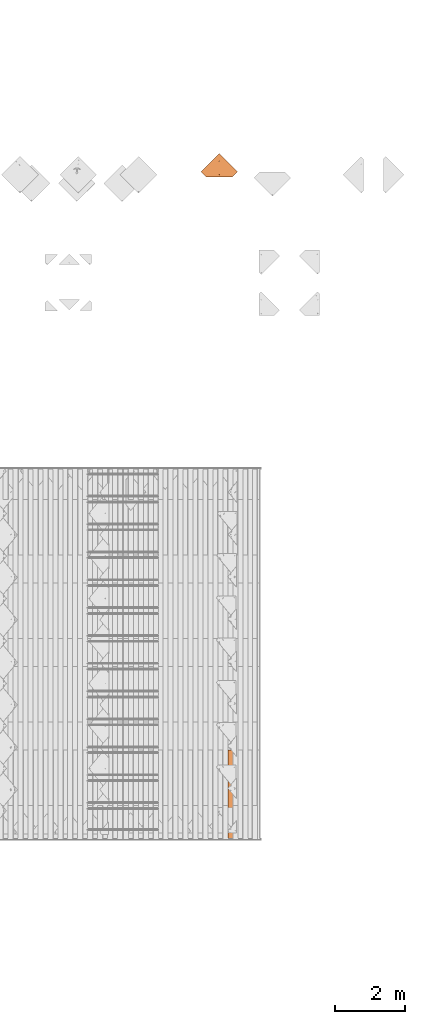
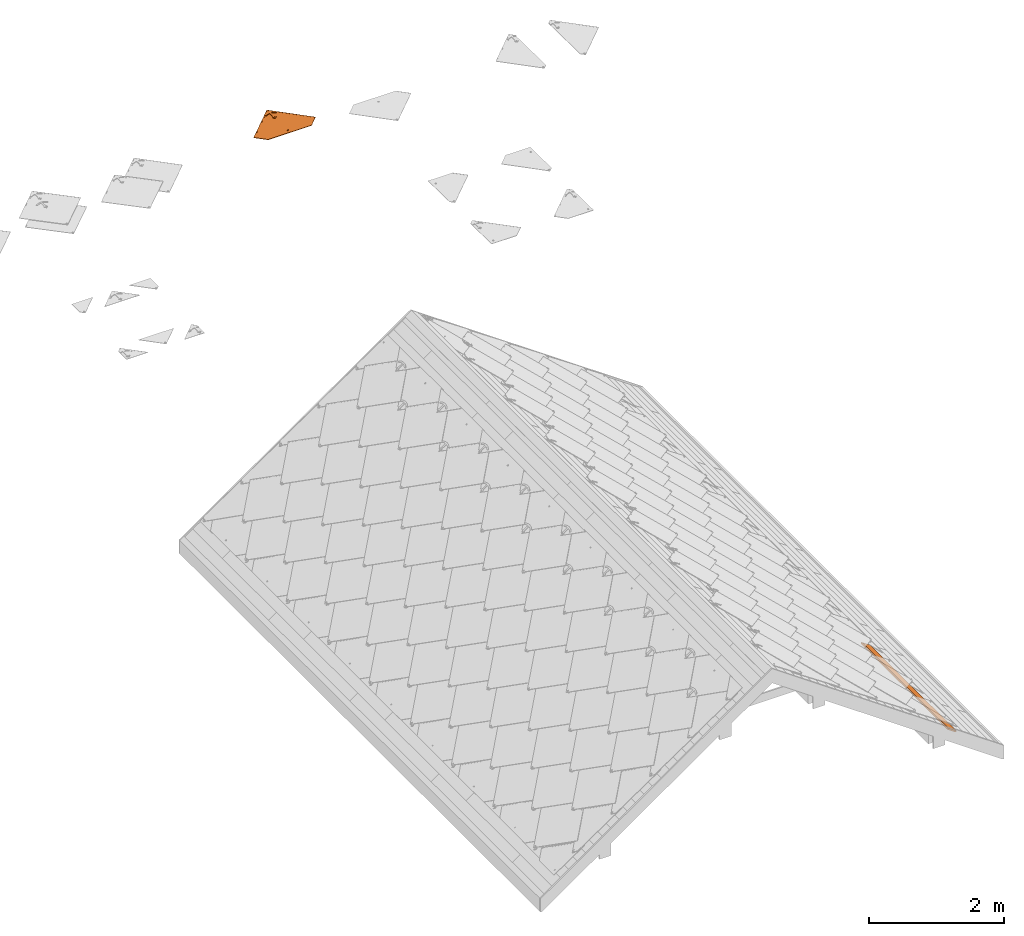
# One storey, part 90 of 133: 2 proxies, 1 element without a shape of its own.
"""IFC2X3 building model written with IfcOpenShell, lengths in millimetres."""

from ifc_helpers import new_model, entity, si_unit, converted_unit, derived_unit, direction, frame, frame_2d, origin, place, context, subcontext, project, spatial, rectangle, extrude, faceted_brep, source, transform, mapped, material, material_list, type_object, type_shapes, element, aggregate, save


model = new_model("IFC2X3")

# Units and contexts
model_context = context("Model", 3, precision=0.01, world=origin(), true_north=direction((6.12303176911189e-17, 1.0)))
body_context = subcontext(model_context, "Body", "Model", "MODEL_VIEW")
ifc_project = project(units=[si_unit("LENGTHUNIT", "METRE", prefix="MILLI"), si_unit("AREAUNIT", "SQUARE_METRE"), si_unit("VOLUMEUNIT", "CUBIC_METRE"), converted_unit("PLANEANGLEUNIT", "DEGREE", entity("IfcRatioMeasure", 0.0174532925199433), si_unit("PLANEANGLEUNIT", "RADIAN"), dimensions=[0, 0, 0, 0, 0, 0, 0]), si_unit("MASSUNIT", "GRAM", prefix="KILO"), derived_unit("MASSDENSITYUNIT", [(si_unit("MASSUNIT", "GRAM", prefix="KILO"), 1), (si_unit("LENGTHUNIT", "METRE"), -3)]), si_unit("TIMEUNIT", "SECOND"), si_unit("FREQUENCYUNIT", "HERTZ"), si_unit("THERMODYNAMICTEMPERATUREUNIT", "DEGREE_CELSIUS"), derived_unit("THERMALTRANSMITTANCEUNIT", [(si_unit("MASSUNIT", "GRAM", prefix="KILO"), 1), (si_unit("THERMODYNAMICTEMPERATUREUNIT", "KELVIN"), -1), (si_unit("TIMEUNIT", "SECOND"), -3)]), derived_unit("VOLUMETRICFLOWRATEUNIT", [(si_unit("LENGTHUNIT", "METRE"), 3), (si_unit("TIMEUNIT", "SECOND"), -1)]), si_unit("ELECTRICCURRENTUNIT", "AMPERE"), si_unit("ELECTRICVOLTAGEUNIT", "VOLT"), si_unit("POWERUNIT", "WATT"), si_unit("FORCEUNIT", "NEWTON", prefix="KILO"), si_unit("ILLUMINANCEUNIT", "LUX"), si_unit("LUMINOUSFLUXUNIT", "LUMEN"), si_unit("LUMINOUSINTENSITYUNIT", "CANDELA"), derived_unit("USERDEFINED", [(si_unit("MASSUNIT", "GRAM", prefix="KILO"), -1), (si_unit("LENGTHUNIT", "METRE"), -2), (si_unit("TIMEUNIT", "SECOND"), 3), (si_unit("LUMINOUSFLUXUNIT", "LUMEN"), 1)]), derived_unit("LINEARVELOCITYUNIT", [(si_unit("LENGTHUNIT", "METRE"), 1), (si_unit("TIMEUNIT", "SECOND"), -1)]), si_unit("PRESSUREUNIT", "PASCAL"), derived_unit("USERDEFINED", [(si_unit("LENGTHUNIT", "METRE"), -2), (si_unit("MASSUNIT", "GRAM", prefix="KILO"), 1), (si_unit("TIMEUNIT", "SECOND"), -2)])], contexts=[model_context])

# Site, building, storey
site_placement = place(None, origin())
site = spatial("IfcSite", under=ifc_project, at=site_placement, Name="Default", CompositionType="ELEMENT")
building_placement = place(site_placement, origin())
building = spatial("IfcBuilding", under=site, at=building_placement, CompositionType="ELEMENT")
storey_placement = place(building_placement, origin())
storey = spatial("IfcBuildingStorey", under=building, at=storey_placement, Name="Level 1", CompositionType="ELEMENT", Elevation=0.0)

# Assembly, proxy
assembly_placement = place(storey_placement, origin())
assembly = element("IfcElementAssembly", 1, at=assembly_placement, inside=storey, Name="Structural Framing Assembly:Roof Construction Assembly", ObjectType="Structural Framing Assembly:Roof Construction Assembly", AssemblyPlace="NOTDEFINED", PredefinedType="USERDEFINED")
ifc_material_1 = material(Name="Wood - Generic - Wood For Showcase")
building_element_proxy_type_1 = type_object("IfcBuildingElementProxyType", Name="Structural Framing 15", PredefinedType="NOTDEFINED", material=ifc_material_1)
shared_shape_1 = source(origin(), body_context, "Body", "SweptSolid", [
    extrude(rectangle(XDim=24.9999999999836, YDim=174.344679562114, at=frame_2d((3.73923114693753e-13, 6.3948846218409e-14), x_axis=(1.0, 0.0))), frame((1285.35601305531, 1437.09519417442, 2760.23940055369), z_axis=(0.0, 1.0, 0.0), x_axis=(0.573576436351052, 0.0, 0.819152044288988)), (0.0, 0.0, 1.0), 2558.45560797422),
])
type_shapes(building_element_proxy_type_1, [shared_shape_1])
proxy_1_placement = place(assembly_placement, frame((2999.11081415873, -8140.0, -2100.0)))
proxy_1 = element("IfcBuildingElementProxy", 2, at=proxy_1_placement, type_object=building_element_proxy_type_1, material=ifc_material_1, Name="Structural Framing 263:Structural Framing 15", ObjectType="Structural Framing 263:Structural Framing 15", context=body_context, shape_type="MappedRepresentation", body=[
    mapped(shared_shape_1, transform((0.0, 0.0, 0.0), scale=1.0)),
])
aggregate(assembly, [proxy_1])

# Proxy
ifc_material_2 = material(Name="Rubber - Sunstyle - Black")
ifc_material_3 = material(Name="Glass - Sunstyle - Tainted Black")
ifc_material_list_1 = material_list([ifc_material_2, ifc_material_3])
ifc_material_list_2 = material_list([ifc_material_2, ifc_material_3])
building_element_proxy_type_2 = type_object("IfcBuildingElementProxyType", Name="Shingle Bottom - Black", PredefinedType="NOTDEFINED", material=ifc_material_list_2)
shared_shape_2 = source(origin(), body_context, "Body", "Brep", [
    faceted_brep([(0.0, -1.79273515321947, -4.01619789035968), (-5.7742028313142, -5.12600528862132, -3.96037390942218), (-5.77420283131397, -4.75769619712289, 18.0314954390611), (0.0, -1.42442606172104, 17.9756714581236), (-5.77420283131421, -11.792545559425, -3.84872594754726), (-5.77420283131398, -11.4242364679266, 18.143143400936), (0.0, -15.1258156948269, -3.79290196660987), (0.0, -14.7575066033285, 18.1989673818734), (5.77420283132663, -11.7925455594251, -3.84872594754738), (5.77420283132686, -11.4242364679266, 18.1431434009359), (5.77420283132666, -5.12600528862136, -3.96037390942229), (5.77420283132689, -4.75769619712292, 18.031495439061), (-8.60370416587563, -16.6934641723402, 18.2313898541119), (0.0, -20.2567354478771, 18.2910657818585), (-12.1674751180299, -8.09096633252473, 18.0873194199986), (-8.60370416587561, 0.511531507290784, 17.9432489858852), (0.0, 4.07480278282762, 17.8835730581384), (8.60370416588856, 0.511531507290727, 17.9432489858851), (12.1674751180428, -8.09096633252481, 18.0873194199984), (8.60370416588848, -16.6934641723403, 18.2313898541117), (-11.4302228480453, -6.71737066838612, 20.4858706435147), (-9.77051349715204, -8.02009729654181, 22.3189355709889), (0.0, -0.706876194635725, 22.9603444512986), (0.0, 0.533621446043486, 22.3799978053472), (0.0, 2.69117229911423, 21.3706227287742), (-6.32324569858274, -4.35709193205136, 23.021476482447), (-6.32324569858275, -11.6575234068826, 23.1437405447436), (0.0, -18.7571148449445, 21.7298281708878), (0.0, -15.3077391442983, 23.2048725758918), (10.9851748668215, -11.808022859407, 20.3827540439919), (10.123850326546, -8.02413622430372, 22.0777687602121), (6.32324569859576, -4.3570919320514, 23.0214764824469), (6.32324569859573, -11.6575234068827, 23.1437405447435), (-6.32324569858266, -11.5234949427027, 31.146628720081), (0.0, -15.1737106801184, 31.2077607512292), (0.0, -7.8732792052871, 31.0854966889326), (-6.32324569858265, -4.22306346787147, 31.0243646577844), (6.32324569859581, -11.5234949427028, 31.1466287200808), (6.32324569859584, -4.22306346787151, 31.0243646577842), (0.0, -0.57284773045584, 30.963232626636), (0.0, -8.45927542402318, -3.90454992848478)], [[[0, 1, 2, 3]], [[1, 4, 5, 2]], [[4, 6, 7, 5]], [[6, 8, 9, 7]], [[8, 10, 11, 9]], [[10, 0, 3, 11]], [[12, 7, 13]], [[7, 12, 5]], [[14, 5, 12]], [[5, 14, 2]], [[15, 2, 14]], [[3, 2, 15]], [[15, 16, 3]], [[16, 17, 3]], [[11, 3, 17]], [[11, 17, 18]], [[9, 11, 18]], [[18, 19, 9]], [[7, 9, 19]], [[19, 13, 7]], [[15, 20, 16]], [[21, 22, 23, 24]], [[22, 21, 25]], [[20, 14, 12]], [[15, 14, 20]], [[25, 21, 26]], [[20, 24, 16]], [[12, 13, 27]], [[12, 27, 20]], [[21, 28, 26]], [[21, 27, 28]], [[20, 21, 24]], [[20, 27, 21]], [[19, 29, 13]], [[30, 23, 31]], [[30, 28, 27]], [[24, 23, 30]], [[29, 27, 13]], [[19, 18, 29]], [[29, 30, 27]], [[29, 17, 24]], [[24, 17, 16]], [[31, 32, 30]], [[23, 22, 31]], [[28, 30, 32]], [[29, 24, 30]], [[29, 18, 17]], [[33, 34, 35]], [[35, 36, 33]], [[34, 37, 35]], [[38, 35, 37]], [[35, 38, 39]], [[35, 39, 36]], [[40, 6, 4]], [[4, 1, 40]], [[1, 0, 40]], [[40, 8, 6]], [[0, 10, 40]], [[8, 40, 10]], [[22, 25, 36, 39]], [[25, 26, 33, 36]], [[26, 28, 34, 33]], [[28, 32, 37, 34]], [[32, 31, 38, 37]], [[31, 22, 39, 38]]]),
    faceted_brep([(0.0, 372.824876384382, 20.3195200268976), (0.0, 377.324245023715, 20.2441667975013), (-8.60370416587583, 376.388147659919, 20.2598440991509), (8.60370416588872, 376.388147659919, 20.2598440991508), (6.64022859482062, 381.157445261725, 20.1799702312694), (12.1674751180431, 384.990645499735, 20.1157736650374), (6.64022859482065, 388.823845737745, 20.0515770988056), (8.6037041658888, 393.59314333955, 19.9717032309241), (0.0, 392.657045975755, 19.9873805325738), (0.0, 397.156414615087, 19.9120273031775), (-8.60370416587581, 393.59314333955, 19.9717032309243), (-6.64022859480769, 388.823845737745, 20.0515770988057), (-12.1674751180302, 384.990645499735, 20.1157736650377), (-6.6402285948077, 381.157445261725, 20.1799702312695), (-6.6402282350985, 388.555922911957, 4.05382046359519), (0.0, 392.389122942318, 3.98962390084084), (-6.64022823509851, 380.889522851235, 4.18221358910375), (0.0, 377.056322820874, 4.24641015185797), (6.64022823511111, 380.889522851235, 4.18221358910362), (6.64022823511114, 388.555922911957, 4.05382046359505), (-8.603704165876, 376.12022504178, 4.26208746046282), (0.0, 372.556953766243, 4.32176338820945), (-12.1674751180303, 384.722722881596, 4.11801702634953), (-8.60370416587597, 393.325220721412, 3.97394659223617), (0.0, 396.888491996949, 3.91427066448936), (8.60370416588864, 393.325220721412, 3.97394659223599), (12.1674751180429, 384.722722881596, 4.11801702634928), (8.60370416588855, 376.12022504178, 4.26208746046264)], [[[0, 1, 2]], [[1, 0, 3]], [[3, 4, 1]], [[4, 3, 5]], [[6, 4, 5]], [[5, 7, 6]], [[7, 8, 6]], [[8, 7, 9]], [[8, 9, 10]], [[10, 11, 8]], [[12, 11, 10]], [[2, 13, 12]], [[12, 13, 11]], [[13, 2, 1]], [[8, 11, 14, 15]], [[11, 13, 16, 14]], [[13, 1, 17, 16]], [[1, 4, 18, 17]], [[4, 6, 19, 18]], [[6, 8, 15, 19]], [[20, 17, 21]], [[17, 20, 16]], [[22, 16, 20]], [[14, 16, 22]], [[23, 14, 22]], [[15, 14, 23]], [[23, 24, 15]], [[24, 25, 15]], [[19, 15, 25]], [[19, 25, 26]], [[26, 18, 19]], [[26, 27, 18]], [[17, 18, 27]], [[27, 21, 17]], [[24, 23, 10, 9]], [[10, 23, 22, 12]], [[20, 21, 0, 2]], [[20, 2, 12, 22]], [[21, 27, 3, 0]], [[3, 27, 26, 5]], [[25, 24, 9, 7]], [[25, 7, 5, 26]]]),
    faceted_brep([(518.247351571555, 79.9143812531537, 14.965257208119), (526.732038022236, 88.3990677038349, 14.8231598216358), (526.732038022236, 88.4241854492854, 16.3229495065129), (518.247351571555, 79.9394989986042, 16.4650468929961), (0.000322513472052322, 598.016093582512, 6.28834266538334), (-518.246706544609, 79.9143812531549, 14.9652572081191), (-526.73139299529, 88.3990677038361, 14.8231598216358), (0.000322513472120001, 614.983087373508, 6.00418773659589), (0.000322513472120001, 615.008205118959, 7.50397742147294), (-526.731392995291, 88.4241854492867, 16.3229495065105), (-518.246706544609, 79.9394989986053, 16.465046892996), (0.000322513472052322, 598.041211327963, 7.78813235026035)], [[[0, 1, 2, 3]], [[1, 0, 4, 5, 6, 7]], [[2, 1, 7, 8]], [[3, 2, 8, 9, 10, 11]], [[0, 3, 11, 4]], [[5, 10, 9, 6]], [[8, 7, 6, 9]], [[4, 11, 10, 5]]]),
    faceted_brep([(0.00032251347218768, 614.983087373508, 6.00418773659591), (-2.87802047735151, 396.187349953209, 9.66847193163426), (0.227808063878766, 396.596182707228, 9.6616250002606), (-5.77219193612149, 394.988712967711, 9.68854611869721), (3.3336366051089, 396.187349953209, 9.66847193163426), (6.22780806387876, 394.988712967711, 9.6885461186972), (8.71308943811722, 393.081956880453, 9.72047953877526), (10.620112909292, 390.59702396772, 9.76209598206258), (-8.25747331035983, 393.081956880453, 9.72047953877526), (-10.1644967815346, 390.59702396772, 9.76209598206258), (-11.3633018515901, 387.703258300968, 9.81055935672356), (-526.731392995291, 88.3990677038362, 14.8231598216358), (11.8189179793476, 387.703258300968, 9.81055935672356), (526.732038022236, 88.3990677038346, 14.8231598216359), (-11.7721919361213, 384.597865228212, 9.86256696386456), (-11.3633018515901, 381.492472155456, 9.91457457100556), (-10.1644967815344, 378.598706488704, 9.96303794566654), (-370.355016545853, -67.9334607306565, 17.4413406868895), (-8.25747331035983, 376.113773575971, 10.0046543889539), (-5.65685424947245, -2.29422365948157, 16.3420467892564), (-6.92820323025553, -3.95084560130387, 16.3697910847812), (-7.72740661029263, -5.88002271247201, 16.4021000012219), (-8.0, -7.95028476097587, 16.4367717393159), (-7.72740661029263, -10.0205468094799, 16.4714434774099), (-6.9282032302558, -11.9497239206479, 16.5037523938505), (-5.65685424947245, -13.6063458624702, 16.5314966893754), (-4.0, -14.8775165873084, 16.5527856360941), (-2.07055236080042, -15.676607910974, 16.5661684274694), (0.0, -15.9491630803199, 16.5707330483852), (370.355661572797, -67.9334607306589, 17.4413406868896), (10.620112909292, 378.598706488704, 9.96303794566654), (8.71308943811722, 376.11377357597, 10.0046543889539), (5.65685424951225, -2.29422365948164, 16.3420467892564), (6.92820323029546, -3.9508456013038, 16.3697910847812), (7.72740661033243, -5.88002271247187, 16.4021000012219), (8.0, -7.9502847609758, 16.4367717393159), (7.72740661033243, -10.0205468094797, 16.4714434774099), (6.92820323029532, -11.9497239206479, 16.5037523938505), (5.65685424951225, -13.6063458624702, 16.5314966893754), (4.0, -14.8775165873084, 16.5527856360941), (2.07055236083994, -15.676607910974, 16.5661684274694), (-5.77219193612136, 374.207017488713, 10.0365878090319), (-4.0, -1.02305293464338, 16.3207578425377), (-2.87802047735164, 373.008380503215, 10.0566619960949), (-2.07055236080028, -0.223961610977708, 16.3073750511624), (0.227808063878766, 372.599547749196, 10.0635089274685), (0.0, 0.0485935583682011, 16.3028104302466), (2.07055236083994, -0.223961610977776, 16.3073750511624), (3.3336366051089, 373.008380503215, 10.0566619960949), (4.0, -1.02305293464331, 16.3207578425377), (6.22780806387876, 374.207017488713, 10.0365878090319), (12.2278080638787, 384.597865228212, 9.86256696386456), (11.8189179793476, 381.492472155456, 9.91457457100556), (-370.355016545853, -68.059049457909, 9.94239226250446), (-6.92820323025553, -4.07643432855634, 8.87084266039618), (-7.72740661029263, -6.00561143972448, 8.90315157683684), (-8.0, -8.07587348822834, 8.93782331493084), (-7.72740661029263, -10.1461355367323, 8.97249505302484), (-6.9282032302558, -12.0753126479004, 9.00480396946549), (-5.65685424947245, -13.7319345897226, 9.03254826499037), (-5.65685424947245, -2.41981238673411, 8.8430983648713), (-8.25747331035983, 375.988184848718, 2.50570596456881), (-4.0, -15.0031053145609, 9.05383721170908), (-2.07055236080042, -15.8021966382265, 9.06722000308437), (0.0, -16.0747518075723, 9.07178462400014), (370.355661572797, -68.0590494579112, 9.9423922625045), (-10.1644967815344, 378.473117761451, 2.46408952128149), (-526.731392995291, 88.2734789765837, 7.32421139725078), (-11.3633018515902, 381.366883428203, 2.41562614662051), (-11.7721919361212, 384.472276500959, 2.36361853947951), (-11.3633018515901, 387.577669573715, 2.3116109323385), (0.00032251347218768, 614.857498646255, -1.49476068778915), (-10.1644967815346, 390.471435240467, 2.26314755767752), (-8.25747331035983, 392.956368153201, 2.22153111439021), (-5.77219193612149, 394.863124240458, 2.18959769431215), (-2.87802047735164, 396.061761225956, 2.16952350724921), (0.227808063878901, 396.470593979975, 2.16267657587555), (3.3336366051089, 396.061761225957, 2.1695235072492), (6.22780806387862, 394.863124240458, 2.18959769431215), (8.71308943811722, 392.956368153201, 2.2215311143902), (10.620112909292, 390.471435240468, 2.26314755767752), (11.8189179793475, 387.577669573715, 2.31161093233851), (526.732038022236, 88.2734789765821, 7.32421139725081), (12.2278080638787, 384.472276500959, 2.3636185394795), (10.620112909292, 378.473117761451, 2.46408952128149), (11.8189179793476, 381.366883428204, 2.41562614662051), (-5.77219193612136, 374.08142876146, 2.53763938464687), (-4.0, -1.14864166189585, 8.8218094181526), (-2.87802047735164, 372.882791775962, 2.55771357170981), (-2.07055236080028, -0.349550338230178, 8.8084266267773), (0.227808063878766, 372.473959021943, 2.56456050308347), (0.0, -0.0769951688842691, 8.80386200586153), (2.07055236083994, -0.349550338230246, 8.8084266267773), (3.3336366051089, 372.882791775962, 2.55771357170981), (4.0, -1.14864166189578, 8.8218094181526), (6.22780806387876, 374.081428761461, 2.53763938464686), (5.65685424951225, -2.41981238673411, 8.8430983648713), (8.71308943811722, 375.988184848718, 2.50570596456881), (6.92820323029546, -4.07643432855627, 8.87084266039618), (7.72740661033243, -6.00561143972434, 8.90315157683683), (8.0, -8.07587348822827, 8.93782331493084), (7.72740661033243, -10.1461355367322, 8.97249505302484), (6.92820323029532, -12.0753126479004, 9.00480396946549), (5.65685424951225, -13.7319345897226, 9.03254826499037), (4.0, -15.0031053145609, 9.05383721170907), (2.07055236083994, -15.8021966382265, 9.06722000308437)], [[[0, 1, 2]], [[1, 0, 3]], [[0, 2, 4]], [[4, 5, 0]], [[5, 6, 0]], [[0, 6, 7]], [[8, 3, 0]], [[9, 8, 0]], [[9, 0, 10]], [[10, 0, 11]], [[12, 0, 7]], [[12, 13, 0]], [[11, 14, 10]], [[14, 11, 15]], [[16, 15, 11]], [[11, 17, 16]], [[16, 17, 18]], [[19, 18, 17]], [[19, 17, 20]], [[20, 17, 21]], [[22, 21, 17]], [[22, 17, 23]], [[24, 23, 17]], [[17, 25, 24]], [[26, 25, 17]], [[27, 26, 17]], [[17, 28, 27]], [[28, 17, 29]], [[29, 13, 30]], [[29, 30, 31]], [[29, 31, 32]], [[32, 33, 29]], [[33, 34, 29]], [[35, 29, 34]], [[29, 35, 36]], [[36, 37, 29]], [[29, 37, 38]], [[38, 39, 29]], [[40, 28, 29]], [[39, 40, 29]], [[41, 18, 19]], [[42, 41, 19]], [[42, 43, 41]], [[44, 43, 42]], [[44, 45, 43]], [[46, 45, 44]], [[47, 45, 46]], [[48, 45, 47]], [[49, 48, 47]], [[49, 50, 48]], [[32, 50, 49]], [[32, 31, 50]], [[12, 51, 13]], [[52, 13, 51]], [[13, 52, 30]], [[53, 54, 55]], [[53, 55, 56]], [[56, 57, 53]], [[57, 58, 53]], [[53, 58, 59]], [[60, 54, 53]], [[61, 60, 53]], [[59, 62, 53]], [[62, 63, 53]], [[63, 64, 53]], [[53, 64, 65]], [[66, 61, 53]], [[66, 53, 67]], [[68, 66, 67]], [[69, 68, 67]], [[69, 67, 70]], [[67, 71, 70]], [[72, 70, 71]], [[73, 72, 71]], [[71, 74, 73]], [[74, 71, 75]], [[75, 71, 76]], [[77, 76, 71]], [[77, 71, 78]], [[79, 78, 71]], [[71, 80, 79]], [[80, 71, 81]], [[71, 82, 81]], [[83, 81, 82]], [[84, 82, 65]], [[85, 82, 84]], [[82, 85, 83]], [[86, 60, 61]], [[86, 87, 60]], [[88, 87, 86]], [[89, 87, 88]], [[90, 89, 88]], [[90, 91, 89]], [[92, 91, 90]], [[92, 90, 93]], [[94, 92, 93]], [[93, 95, 94]], [[94, 95, 96]], [[97, 96, 95]], [[96, 97, 65]], [[84, 65, 97]], [[98, 96, 65]], [[99, 98, 65]], [[99, 65, 100]], [[101, 100, 65]], [[102, 101, 65]], [[103, 102, 65]], [[104, 103, 65]], [[105, 104, 65]], [[65, 64, 105]], [[11, 0, 71, 67]], [[17, 11, 67, 53]], [[13, 29, 65, 82]], [[0, 13, 82, 71]], [[22, 56, 55, 21]], [[21, 55, 54, 20]], [[42, 19, 60, 87]], [[60, 19, 20, 54]], [[44, 42, 87, 89]], [[44, 89, 91, 46]], [[46, 91, 92, 47]], [[47, 92, 94, 49]], [[33, 32, 96, 98]], [[96, 32, 49, 94]], [[34, 33, 98, 99]], [[34, 99, 100, 35]], [[35, 100, 101, 36]], [[36, 101, 102, 37]], [[39, 38, 103, 104]], [[103, 38, 37, 102]], [[40, 39, 104, 105]], [[40, 105, 64, 28]], [[28, 64, 63, 27]], [[27, 63, 62, 26]], [[24, 25, 59, 58]], [[59, 25, 26, 62]], [[23, 24, 58, 57]], [[23, 57, 56, 22]], [[14, 69, 70, 10]], [[10, 70, 72, 9]], [[3, 8, 73, 74]], [[73, 8, 9, 72]], [[1, 3, 74, 75]], [[1, 75, 76, 2]], [[2, 76, 77, 4]], [[4, 77, 78, 5]], [[7, 6, 79, 80]], [[79, 6, 5, 78]], [[12, 7, 80, 81]], [[12, 81, 83, 51]], [[51, 83, 85, 52]], [[52, 85, 84, 30]], [[50, 31, 97, 95]], [[97, 31, 30, 84]], [[48, 50, 95, 93]], [[48, 93, 90, 45]], [[45, 90, 88, 43]], [[43, 88, 86, 41]], [[16, 18, 61, 66]], [[41, 86, 61, 18]], [[68, 15, 16, 66]], [[15, 68, 69, 14]], [[29, 17, 53, 65]]]),
    faceted_brep([(-111.269043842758, 451.472531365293, 11.2429332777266), (-84.9443960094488, 477.793488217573, 10.8021227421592), (-102.027571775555, 494.874268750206, 10.5160621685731), (-108.279973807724, 489.512620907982, 10.6058564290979), (-114.2509690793, 483.839345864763, 10.7008696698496), (-128.946713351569, 469.147722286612, 10.9469178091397), (128.946713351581, 469.147722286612, 10.9469178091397), (114.250969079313, 483.839345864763, 10.7008696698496), (108.279973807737, 489.512620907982, 10.6058564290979), (102.027571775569, 494.874268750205, 10.5160621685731), (84.9431983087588, 477.794685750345, 10.802102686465), (111.269043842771, 451.472531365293, 11.2429332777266), (-8.48528137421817, 393.302959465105, 19.7181805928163), (-18.7041061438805, 407.484939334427, 19.4806677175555), (-23.2046504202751, 402.851933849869, 19.5582590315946), (-10.3923048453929, 390.818026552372, 19.7597970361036), (-6.0, 395.209715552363, 19.6862471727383), (-13.2999999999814, 411.02298750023, 19.4214142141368), (-3.10582854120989, 396.408352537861, 19.6661729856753), (0.0, 396.81718529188, 19.6593260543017), (13.3000000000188, 411.022987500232, 19.4214142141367), (3.10582854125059, 396.408352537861, 19.6661729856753), (6.0, 395.209715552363, 19.6862471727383), (18.7041061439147, 407.484939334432, 19.4806677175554), (8.48528137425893, 393.302959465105, 19.7181805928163), (23.2046504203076, 402.85193384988, 19.5582590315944), (10.3923048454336, 390.818026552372, 19.7597970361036), (26.5842195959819, 397.347783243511, 19.6504398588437), (11.5911099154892, 387.92426088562, 19.8082604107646), (28.6795527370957, 391.238383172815, 19.752757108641), (12.0, 384.818867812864, 19.8602680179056), (29.3894280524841, 384.818867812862, 19.8602680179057), (11.5911099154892, 381.713474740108, 19.9122756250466), (10.3923048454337, 378.819709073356, 19.9607389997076), (8.48528137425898, 376.334776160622, 20.0023554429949), (0.0, 355.433560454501, 20.3523987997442), (6.0, 374.428020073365, 20.034288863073), (3.10582854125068, 373.229383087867, 20.0543630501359), (0.0, 372.820550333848, 20.0612099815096), (-3.10582854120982, 373.229383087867, 20.0543630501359), (-6.0, 374.428020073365, 20.034288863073), (-8.48528137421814, 376.334776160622, 20.0023554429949), (-29.3894280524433, 384.818867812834, 19.8602680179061), (-10.3923048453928, 378.819709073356, 19.9607389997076), (-11.5911099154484, 381.713474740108, 19.9122756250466), (-12.0, 384.818867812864, 19.8602680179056), (-28.67955273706, 391.238383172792, 19.7527571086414), (-11.5911099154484, 387.92426088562, 19.8082604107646), (-26.5842195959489, 397.347783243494, 19.650439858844), (-13.2999999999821, 505.810987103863, 17.833951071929), (13.3000000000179, 505.810987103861, 17.833951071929), (0.0, 531.282600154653, 17.4073649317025), (36.4908407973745, 527.108634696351, 17.4772684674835), (38.7697427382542, 500.996106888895, 17.9145883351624), (71.096085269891, 514.802420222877, 17.6833669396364), (62.9243331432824, 491.592473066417, 18.0720758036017), (102.027571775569, 494.999857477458, 18.0150105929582), (84.9443960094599, 477.919076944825, 18.3010711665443), (-36.4908407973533, 527.108634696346, 17.4772684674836), (-38.7697427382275, 500.996106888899, 17.9145883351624), (-71.0960852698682, 514.802420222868, 17.6833669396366), (-62.9243331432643, 491.592473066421, 18.0720758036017), (-102.027571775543, 494.999857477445, 18.0150105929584), (-84.9443960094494, 477.919076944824, 18.3010711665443), (0.0, 355.266108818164, 10.3538009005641), (0.0, 372.653098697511, 10.0626120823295), (3.10582854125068, 373.06193145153, 10.0557651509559), (-3.10582854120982, 373.06193145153, 10.0557651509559), (6.0, 374.260568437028, 10.0356909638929), (8.48528137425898, 376.167324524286, 10.0037575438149), (29.3894280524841, 384.651416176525, 9.86167011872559), (-6.0, 374.260568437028, 10.0356909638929), (-8.48528137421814, 376.167324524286, 10.0037575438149), (-29.3894280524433, 384.651416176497, 9.86167011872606), (-10.3923048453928, 378.652257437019, 9.96214110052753), (-11.5911099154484, 381.546023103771, 9.91367772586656), (-12.0, 384.651416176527, 9.86167011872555), (-28.67955273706, 391.070931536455, 9.75415920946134), (-11.5911099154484, 387.756809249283, 9.80966251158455), (-26.5842195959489, 397.180331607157, 9.65184195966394), (-10.3923048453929, 390.650574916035, 9.76119913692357), (-23.2046504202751, 402.684482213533, 9.5596611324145), (-8.48528137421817, 393.135507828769, 9.71958269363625), (-18.7041061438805, 407.31748769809, 9.48206981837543), (-6.0, 395.042263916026, 9.6876492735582), (-13.2999999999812, 410.855535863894, 9.4228163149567), (-3.10582854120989, 396.240900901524, 9.66757508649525), (0.0, 396.649733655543, 9.66072815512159), (13.3000000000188, 410.855535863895, 9.42281631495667), (-13.2999999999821, 505.643535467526, 7.83535317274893), (13.3000000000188, 505.643535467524, 7.83535317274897), (0.0, 531.115148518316, 7.4087670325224), (-36.4908407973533, 526.94118306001, 7.47867056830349), (-38.7697427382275, 500.828655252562, 7.91599043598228), (-71.0960852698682, 514.634968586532, 7.68476904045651), (-62.9243331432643, 491.425021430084, 8.07347790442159), (-102.027571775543, 494.832405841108, 8.01641269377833), (-84.9431983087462, 477.752822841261, 8.30245321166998), (-108.279973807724, 489.470757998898, 8.10620695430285), (-114.2509690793, 483.79748295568, 8.2012201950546), (-111.269043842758, 451.430668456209, 8.74328380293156), (-128.946713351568, 469.105859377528, 8.44726833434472), (36.4908407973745, 526.941183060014, 7.47867056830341), (38.7697427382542, 500.828655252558, 7.91599043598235), (71.096085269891, 514.634968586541, 7.68476904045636), (62.9243331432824, 491.425021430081, 8.07347790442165), (102.027571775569, 494.832405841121, 8.01641269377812), (84.9443960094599, 477.751625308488, 8.30247326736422), (108.279973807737, 489.470757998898, 8.10620695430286), (114.250969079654, 483.797482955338, 8.20122019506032), (111.269043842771, 451.430668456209, 8.74328380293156), (128.946713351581, 469.105859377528, 8.44726833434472), (3.10582854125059, 396.240900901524, 9.66757508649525), (6.0, 395.042263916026, 9.6876492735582), (18.7041061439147, 407.317487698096, 9.48206981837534), (8.48528137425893, 393.135507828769, 9.71958269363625), (23.2046504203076, 402.684482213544, 9.55966113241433), (10.3923048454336, 390.650574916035, 9.76119913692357), (26.5842195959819, 397.180331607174, 9.65184195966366), (11.5911099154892, 387.756809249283, 9.80966251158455), (28.6795527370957, 391.070931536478, 9.75415920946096), (12.0, 384.651416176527, 9.86167011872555), (11.5911099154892, 381.546023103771, 9.91367772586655), (10.3923048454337, 378.652257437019, 9.96214110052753)], [[[0, 1, 2, 3, 4, 5]], [[6, 7, 8, 9, 10, 11]], [[12, 13, 14]], [[15, 12, 14]], [[16, 13, 12]], [[13, 16, 17]], [[17, 16, 18]], [[18, 19, 17]], [[20, 17, 19]], [[19, 21, 20]], [[22, 20, 21]], [[22, 23, 20]], [[22, 24, 23]], [[25, 23, 24]], [[26, 25, 24]], [[25, 26, 27]], [[26, 28, 27]], [[29, 27, 28]], [[28, 30, 29]], [[31, 29, 30]], [[30, 32, 31]], [[32, 33, 31]], [[31, 33, 34]], [[34, 35, 31]], [[34, 36, 35]], [[37, 35, 36]], [[38, 35, 37]], [[35, 38, 39]], [[40, 35, 39]], [[40, 41, 35]], [[42, 35, 41]], [[43, 42, 41]], [[43, 44, 42]], [[44, 45, 42]], [[45, 46, 42]], [[46, 45, 47]], [[48, 46, 47]], [[47, 15, 48]], [[48, 15, 14]], [[20, 49, 17]], [[49, 20, 50]], [[51, 49, 50]], [[50, 52, 51]], [[53, 52, 50]], [[52, 53, 54]], [[55, 54, 53]], [[54, 55, 56]], [[55, 57, 56]], [[58, 49, 51]], [[49, 58, 59]], [[60, 59, 58]], [[60, 61, 59]], [[61, 60, 62]], [[61, 62, 63]], [[64, 65, 66]], [[65, 64, 67]], [[64, 66, 68]], [[68, 69, 64]], [[64, 69, 70]], [[71, 67, 64]], [[71, 64, 72]], [[72, 64, 73]], [[73, 74, 72]], [[74, 73, 75]], [[76, 75, 73]], [[77, 76, 73]], [[76, 77, 78]], [[78, 77, 79]], [[80, 78, 79]], [[81, 80, 79]], [[82, 80, 81]], [[81, 83, 82]], [[83, 84, 82]], [[84, 83, 85]], [[85, 86, 84]], [[87, 86, 85]], [[87, 85, 88]], [[88, 85, 89]], [[88, 89, 90]], [[89, 91, 90]], [[91, 89, 92]], [[93, 92, 89]], [[94, 92, 93]], [[93, 95, 94]], [[95, 96, 94]], [[97, 96, 95]], [[98, 96, 97]], [[99, 98, 97]], [[97, 100, 99]], [[101, 99, 100]], [[102, 90, 91]], [[90, 102, 103]], [[104, 103, 102]], [[103, 104, 105]], [[105, 104, 106]], [[107, 105, 106]], [[107, 106, 108]], [[109, 107, 108]], [[110, 107, 109]], [[111, 110, 109]], [[87, 88, 112]], [[113, 112, 88]], [[114, 113, 88]], [[115, 113, 114]], [[115, 114, 116]], [[116, 117, 115]], [[116, 118, 117]], [[117, 118, 119]], [[119, 118, 120]], [[121, 119, 120]], [[120, 70, 121]], [[122, 121, 70]], [[70, 69, 123]], [[123, 122, 70]], [[17, 49, 89, 85]], [[13, 17, 85, 83]], [[14, 13, 83, 81]], [[81, 79, 48, 14]], [[46, 48, 79, 77]], [[42, 46, 77, 73]], [[35, 42, 73, 64]], [[31, 35, 64, 70]], [[29, 31, 70, 120]], [[27, 29, 120, 118]], [[118, 116, 25, 27]], [[23, 25, 116, 114]], [[20, 23, 114, 88]], [[50, 20, 88, 90]], [[9, 106, 104, 54, 56]], [[52, 54, 104, 102]], [[51, 52, 102, 91]], [[58, 51, 91, 92]], [[94, 96, 2, 62, 60]], [[60, 58, 92, 94]], [[45, 76, 78, 47]], [[47, 78, 80, 15]], [[16, 12, 82, 84]], [[80, 82, 12, 15]], [[18, 16, 84, 86]], [[87, 19, 18, 86]], [[21, 112, 113, 22]], [[22, 113, 115, 24]], [[28, 26, 117, 119]], [[115, 117, 26, 24]], [[30, 28, 119, 121]], [[21, 19, 87, 112]], [[30, 121, 122, 32]], [[32, 122, 123, 33]], [[36, 34, 69, 68]], [[123, 69, 34, 33]], [[37, 36, 68, 66]], [[65, 38, 37, 66]], [[39, 67, 71, 40]], [[40, 71, 72, 41]], [[44, 43, 74, 75]], [[72, 74, 43, 41]], [[45, 44, 75, 76]], [[39, 38, 65, 67]], [[7, 6, 111, 109]], [[6, 11, 110, 111]], [[7, 109, 108, 8]], [[108, 106, 9, 8]], [[11, 10, 107, 110]], [[0, 5, 101, 100]], [[1, 0, 100, 97]], [[2, 96, 98, 3]], [[98, 99, 4, 3]], [[5, 4, 99, 101]], [[63, 62, 2, 1]], [[56, 57, 10]], [[10, 9, 56]], [[1, 95, 61, 63]], [[1, 97, 95]], [[93, 89, 49, 59]], [[95, 93, 59, 61]], [[90, 103, 53, 50]], [[103, 105, 55, 53]], [[10, 57, 55]], [[107, 10, 105]], [[55, 105, 10]]]),
])
type_shapes(building_element_proxy_type_2, [shared_shape_2])
proxy_2_placement = place(storey_placement, frame((3972.67937056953, 12373.1387530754, 0.0)))
element("IfcBuildingElementProxy", 3, at=proxy_2_placement, inside=storey, type_object=building_element_proxy_type_2, material=ifc_material_list_1, Name="Roofing_Panels_SunStyle_Tile_Shingle-Bottom:Shingle Bottom - Black", ObjectType="Roofing_Panels_SunStyle_Tile_Shingle-Bottom:Shingle Bottom - Black", context=body_context, shape_type="MappedRepresentation", body=[
    mapped(shared_shape_2, transform((0.0, 0.0, 0.0), scale=1.0)),
])

save(model, "model.ifc")
